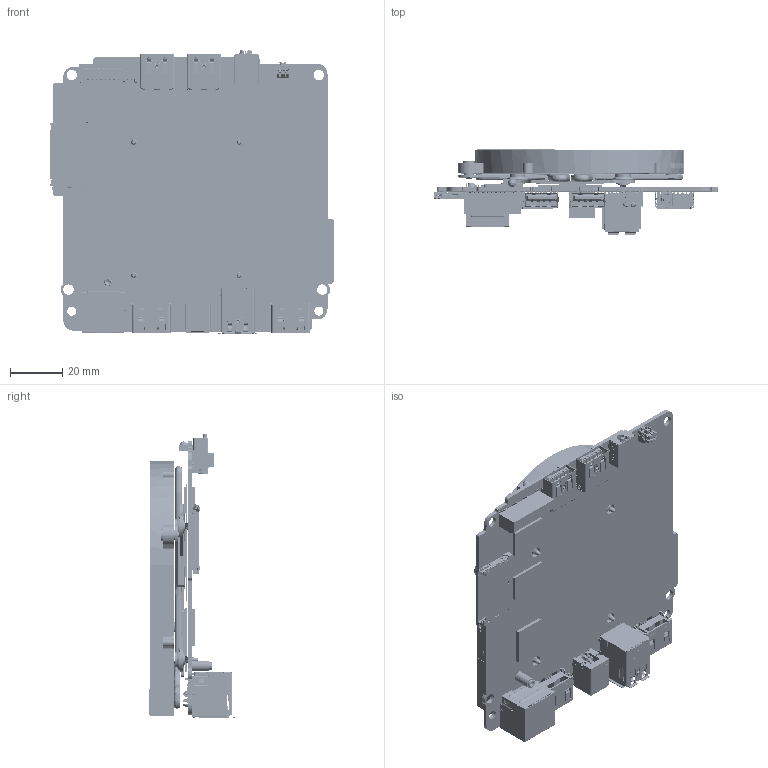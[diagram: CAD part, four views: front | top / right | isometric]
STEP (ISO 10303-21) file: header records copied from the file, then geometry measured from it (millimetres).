
FILE_DESCRIPTION (( 'STEP AP203' ), '1' );
FILE_NAME ('NUC_CY_MB_18WW33.STEP', '2018-08-14T00:46:19', ( '' ), ( '' ), 'SwSTEP 2.0', 'SolidWorks 2018', '' );
FILE_SCHEMA (( 'CONFIG_CONTROL_DESIGN' ));
Length unit declared in the file: inch
Products named in the file (44): CY_MSBR-17; A_HDMI_19P_20_4HD_RA; A_USB_9P_4HD_RA_TCO; LG-110_HDD_LED; CY_MSBR-28; CY_MSBR-26; CY_MB_ASSY; CY_MSBR-25; 20180516; CY_MSBR-24; A_BGA_170P_31_555X476; CY_MSBR-3; MINI_PCI_67P_20_4H_LOTES; CY_MSBR-4; CY_CPU_45X24X1_5; CY_THM_SPRING_AF0_1_4_1; NUC_CY_MB_18WW33; CY_THERMAL_ASSY; CY_THM_SCREW25_1012_1_4_1; CY_MSBR-22; CY_MSBR-23; A_SD_SCK_11P_4H_TAI; CY_MSBR-20; SMT_NUT_CT217B67D51; CY_MSBR-21; A_DC_PWR_JACK_2P_5HD_RA_SIN; A_AUDIO_JACK_6P_4H_LOT; MX_HOLE_C236D138; CY_ORING_Z_1_4_1; A_BGA_200P_31_398X594; TP_SW_4P_4HOLD_DIPTRON; CY_SCW_0802; LAN_JACK_12P_4HD_CZT_LF5; A_IR_4P_67_209X150; MX_HOLE_C236D157; CY_SCW_SET-0421_ASM_1_1_1; A_USB_2X9P_4HOLD_RA; CY_MSBR-27; CY_GPU_24_5X24_5X2_1; CY_MSBR-19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
Assembly tree (56 placements, depth 6):
  NUC_CY_MB_18WW33
    CY_MB_ASSY
      CY_ME_MB_ASSY
        CY_MB_ME
        A_HDMI_19P_20_4HD_RA  x2
        LAN_JACK_12P_4HD_CZT_LF5
        A_DC_PWR_JACK_2P_5HD_RA_SIN
        A_USB_2X9P_4HOLD_RA
        TP_SW_4P_4HOLD_DIPTRON
        A_USB_9P_4HD_RA_TCO  x2
        A_AUDIO_JACK_6P_4H_LOT
        A_IR_4P_67_209X150
        LG-110_HDD_LED
        MX_HOLE_C236D157  x4
        MX_HOLE_C236D138  x2
        MINI_PCI_67P_20_4H_LOTES
        CY_CPU_45X24X1_5
        CY_GPU_24_5X24_5X2_1
        SMT_NUT_CT217B67D51
        A_BGA_200P_31_398X594  x4
        A_BGA_170P_31_555X476  x2
        A_SD_SCK_11P_4H_TAI
    CY_THERMAL_ASSY
      20180516
        CY_MSBR-28
        CY_MSBR-27
        CY_MSBR-26
        CY_MSBR-25
        CY_MSBR-24
        CY_MSBR-23
        CY_MSBR-21
        CY_MSBR-22
        CY_MSBR-20
        CY_MSBR-19
        CY_MSBR-18
        CY_MSBR-17
        CY_MSBR-4
        CY_MSBR-3
        CY_MSBR-2
        CY_SCW_0802
          CY_SCW_SET-0421_ASM_1_1_1  x4
            CY_THM_SCREW25_1012_1_4_1
            CY_ORING_Z_1_4_1
            CY_THM_SPRING_AF0_1_4_1
Bounding box: 109 x 32.71 x 108.85 mm (x, y, z)
Volume: 45815.6 mm3; surface area: 114768.4 mm2
Topology: 53 solids, 100 shells, 12317 faces, 35589 edges, 23385 vertices
Faces by surface type: plane 8601, cylinder 3187, bspline 341, cone 171, torus 17
Entity records: 367724 total; most frequent: CARTESIAN_POINT 103125, ORIENTED_EDGE 58354, DIRECTION 47626, EDGE_CURVE 29226, LINE 21258, VECTOR 21258, VERTEX_POINT 19166, AXIS2_PLACEMENT_3D 13184
